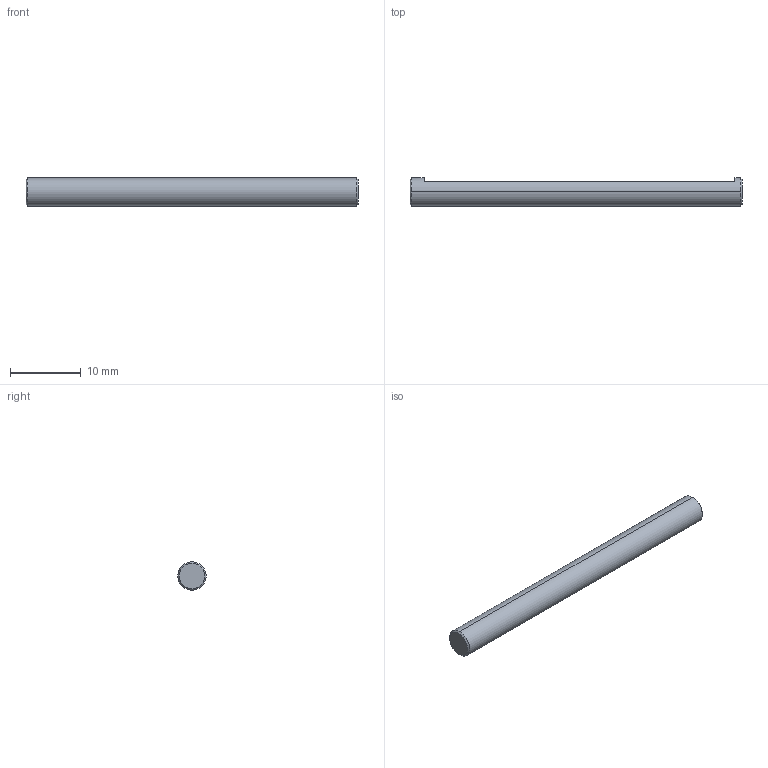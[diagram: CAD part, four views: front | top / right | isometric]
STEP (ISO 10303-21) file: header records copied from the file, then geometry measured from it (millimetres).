
FILE_DESCRIPTION (( 'STEP AP214' ), '1' );
FILE_NAME ('NTS220-B-HOLDER.STEP', '2025-01-08T06:26:45', ( '' ), ( '' ), 'SwSTEP 2.0', 'SolidWorks 2022', '' );
FILE_SCHEMA (( 'AUTOMOTIVE_DESIGN' ));
Length unit declared in the file: millimetre
Products named in the file (1): NTS220-B-HOLDER
Bounding box: 47 x 4 x 4 mm (x, y, z)
Volume: 550.2 mm3; surface area: 603.7 mm2
Topology: 1 solids, 1 shells, 11 faces, 20 edges, 12 vertices
Faces by surface type: plane 5, cone 4, cylinder 2
Entity records: 306 total; most frequent: DIRECTION 54, CARTESIAN_POINT 44, ORIENTED_EDGE 40, AXIS2_PLACEMENT_3D 22, EDGE_CURVE 20, EDGE_LOOP 12, VERTEX_POINT 12, FACE_OUTER_BOUND 11
